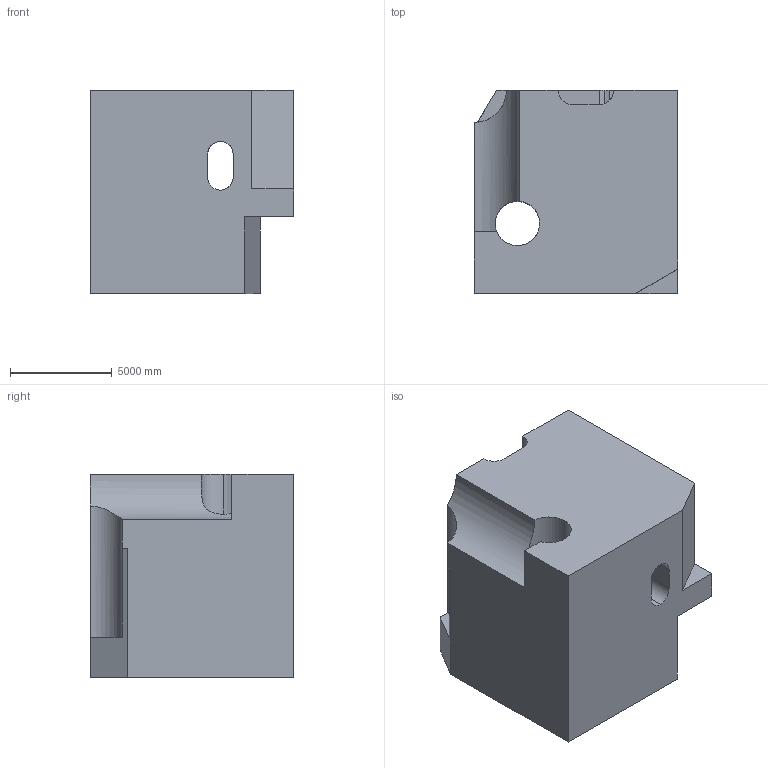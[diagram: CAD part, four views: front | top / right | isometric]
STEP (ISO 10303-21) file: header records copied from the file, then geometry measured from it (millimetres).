
FILE_DESCRIPTION (( 'STEP AP203' ), '1' );
FILE_NAME ('1931.STEP', '2022-08-23T09:37:29', ( 'user' ), ( '' ), 'SwSTEP 2.0', 'SolidWorks 2021', '' );
FILE_SCHEMA (( 'CONFIG_CONTROL_DESIGN' ));
Length unit declared in the file: centimetre
Products named in the file (1): 1931
Bounding box: 10000 x 10000 x 10000 mm (x, y, z)
Volume: 765364552651.3 mm3; surface area: 740631091.5 mm2
Topology: 1 solids, 1 shells, 40 faces, 123 edges, 82 vertices
Faces by surface type: plane 26, cylinder 14
Entity records: 1996 total; most frequent: CARTESIAN_POINT 790, ORIENTED_EDGE 246, DIRECTION 229, EDGE_CURVE 123, LINE 83, VECTOR 83, VERTEX_POINT 82, AXIS2_PLACEMENT_3D 73
